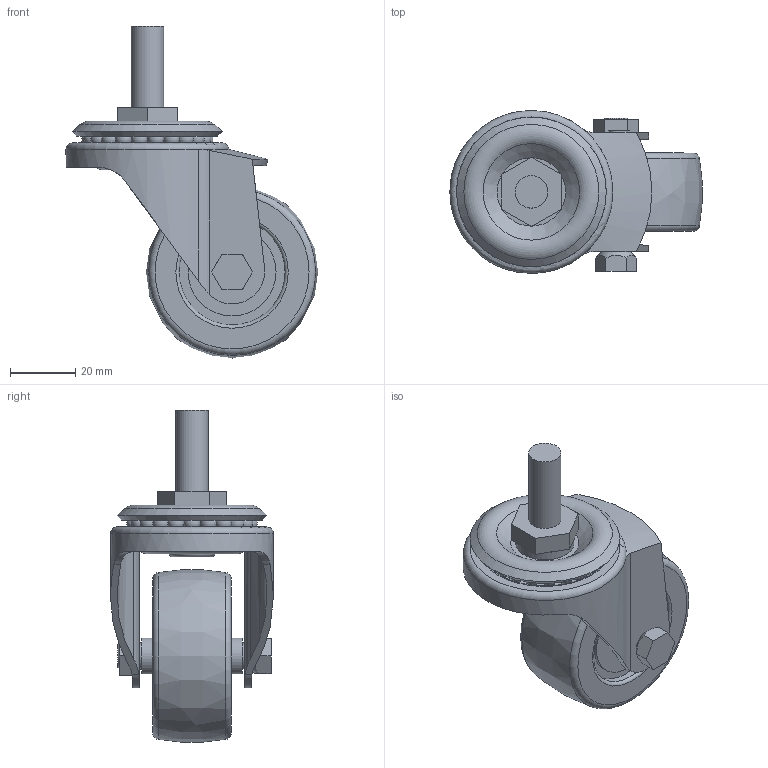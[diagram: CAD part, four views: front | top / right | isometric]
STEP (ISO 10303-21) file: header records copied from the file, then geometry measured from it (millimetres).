
FILE_DESCRIPTION(/* description */ (''),/* implementation_level */ '2;1');
FILE_NAME(/* name */ '15A04_2_F.stp',/* time_stamp */ '2022-10-06T14:01:52+08:00',/* author */ (''),/* organization */ (''),/* preprocessor_version */ 'ST-DEVELOPER v14',/* originating_system */ 'SIEMENS PLM Software NX 8.0',/* authorisation */ '');
FILE_SCHEMA (('AUTOMOTIVE_DESIGN { 1 0 10303 214 3 1 1 1 }'));
Length unit declared in the file: millimetre
Products named in the file (1): 15A04_2_F
Bounding box: 77.4 x 50 x 101.9 mm (x, y, z)
Volume: 74702.2 mm3; surface area: 32907.2 mm2
Topology: 1 solids, 2 shells, 409 faces, 1242 edges, 813 vertices
Faces by surface type: plane 225, torus 61, cylinder 60, sphere 43, cone 19, bspline 1
Full cylindrical faces by diameter (mm): 8 x3, 8.2 x2, 10 x2, 10.2 x1, 10.5 x1, 10.6 x1, 11 x2, 17 x1, 18 x1, 23 x2, 27 x2, 32.5 x2, 41 x1
Entity records: 17929 total; most frequent: CARTESIAN_POINT 8390, ORIENTED_EDGE 2114, DIRECTION 1678, EDGE_CURVE 1057, VERTEX_POINT 726, AXIS2_PLACEMENT_3D 680, EDGE_LOOP 531, B_SPLINE_CURVE_WITH_KNOTS 468
